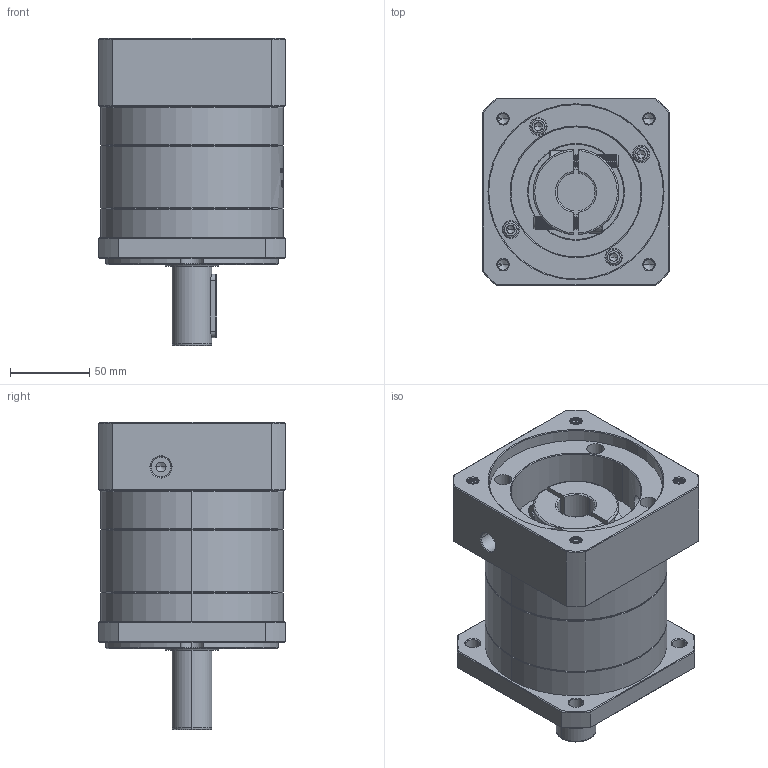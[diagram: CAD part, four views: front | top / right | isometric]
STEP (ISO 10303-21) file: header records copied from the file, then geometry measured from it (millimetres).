
FILE_DESCRIPTION (( 'STEP AP214' ), '1' );
FILE_NAME ('ZF120A-D25-L1-24-110-130-M8.step', '2023-03-07T09:28:33', ( '' ), ( '' ), 'SwSTEP 2.0', 'SolidWorks 2016', '' );
FILE_SCHEMA (( 'AUTOMOTIVE_DESIGN' ));
Length unit declared in the file: millimetre
Products named in the file (1): ZF120A-D25-L1-24-110-130-M8
Bounding box: 118 x 118 x 193.5 mm (x, y, z)
Volume: 1441709.3 mm3; surface area: 165492.5 mm2
Topology: 6 solids, 6 shells, 1944 faces, 5081 edges, 3235 vertices
Faces by surface type: plane 857, cylinder 422, cone 324, bspline 321, torus 20
Entity records: 106710 total; most frequent: CARTESIAN_POINT 41331, ORIENTED_EDGE 10102, DIRECTION 7835, EDGE_CURVE 5051, VERTEX_POINT 3235, VECTOR 2743, LINE 2743, AXIS2_PLACEMENT_3D 2546
